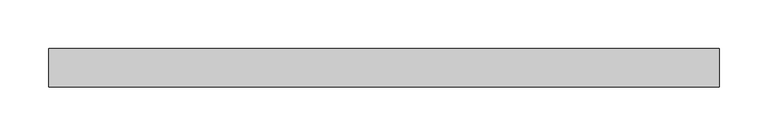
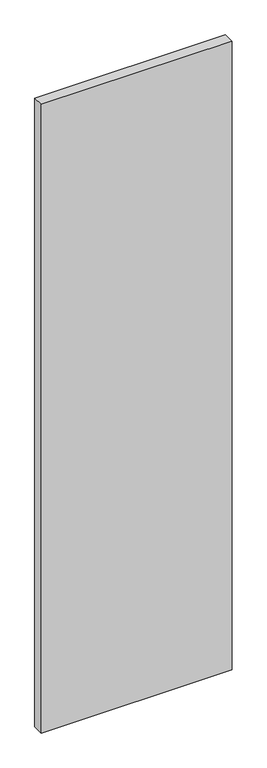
"""IFC4 building model written with IfcOpenShell, lengths in millimetres: plate geometry, Vitré."""

from ifc_helpers import new_model, si_unit, origin, origin_with_axes, place, context, project, spatial, polyline, outline, extrude, source, transform, mapped, element, save


def plate_0319944f(model_context):
    return source(origin(), model_context, "Body", "SweptSolid", [
        extrude(outline(polyline([(-345.65625, -20.0), (-345.65625, 20.0), (345.65625, 20.0), (345.65625, -20.0), (-345.65625, -20.0)])), origin_with_axes(), (0.0, 0.0, 1.0), 2407.625),
    ])


if __name__ == "__main__":
    model = new_model("IFC4")
    model_context = context("Model", 3, world=origin())
    ifc_project = project(units=[si_unit("LENGTHUNIT", "METRE", prefix="MILLI")], contexts=[model_context])
    site = spatial("IfcSite", under=ifc_project)
    building = spatial("IfcBuilding", under=site)
    placement = place(None, origin())
    plate_shape = plate_0319944f(model_context)
    element("IfcPlate", 1, ObjectType="Vitré", at=placement, inside=building, context=model_context, shape_type="MappedRepresentation", body=[
        mapped(plate_shape, transform((0.0, 0.0, 0.0), x_axis=(1.0, 0.0, 0.0), y_axis=(0.0, 1.0, 0.0), z_axis=(0.0, 0.0, 1.0))),
    ])
    save(model, "model.ifc")
